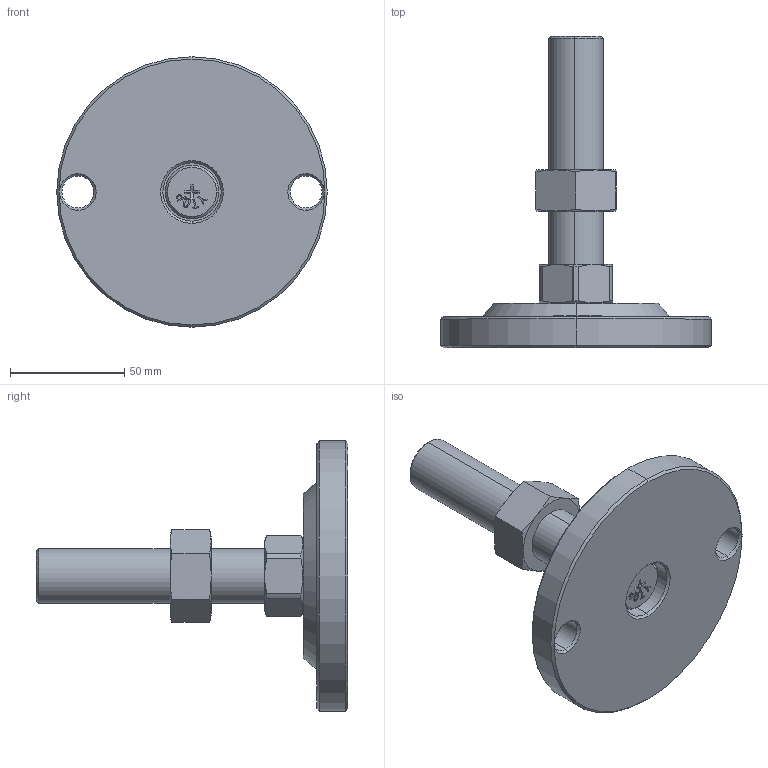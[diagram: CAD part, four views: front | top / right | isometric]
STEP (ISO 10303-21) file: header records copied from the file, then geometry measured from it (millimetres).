
FILE_DESCRIPTION (( 'STEP AP203' ), '1' );
FILE_NAME ('KL-120-24100-P.STEP', '2020-09-10T02:36:14', ( '' ), ( '' ), 'SwSTEP 2.0', 'SolidWorks 2016', '' );
FILE_SCHEMA (( 'CONFIG_CONTROL_DESIGN' ));
Length unit declared in the file: millimetre
Products named in the file (5): 眻芛蹟邡M24炵蹈_M24X100; KL-120-24100-P; KL-120-0.1 KL120菁釱; 螺丝平底十字带商标M10系列_M10X14; 脚垫调节六角螺母M24
Assembly tree (4 placements, depth 2):
  KL-120-24100-P
    KL-120-0.1 KL120菁釱
    眻芛蹟邡M24炵蹈_M24X100
    脚垫调节六角螺母M24
    螺丝平底十字带商标M10系列_M10X14
Bounding box: 118.5 x 136.5 x 118.5 mm (x, y, z)
Volume: 241354.7 mm3; surface area: 46525 mm2
Topology: 4 solids, 4 shells, 210 faces, 511 edges, 324 vertices
Faces by surface type: plane 101, cone 52, cylinder 33, bspline 24
Entity records: 8380 total; most frequent: CARTESIAN_POINT 3120, ORIENTED_EDGE 1014, DIRECTION 903, EDGE_CURVE 507, VERTEX_POINT 324, AXIS2_PLACEMENT_3D 307, VECTOR 289, LINE 289
